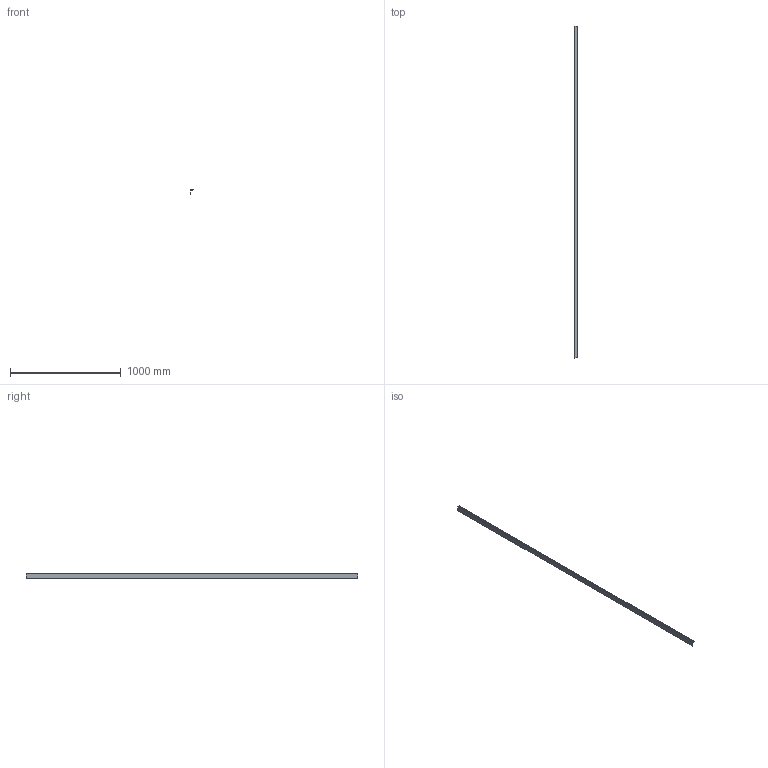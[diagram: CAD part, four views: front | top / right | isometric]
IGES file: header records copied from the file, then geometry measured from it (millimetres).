
Start section: Data from Parasolid IGES Translator 20.0.26, Copyright(c) 2006 Siemens P LM Software. All Rights Reserved.
Global section: file name: 9298808.igs; native system: By Siemens PLM Incorporated; preprocessor: XPlus GENERIC/IGES 20.0.26; author: Noname; organization: Noname; date: 20210823.112257; units: millimetre
Bounding box: 21.5 x 3000 x 40 mm (x, y, z)
Surface area: 445079.7 mm2 (no closed solid volume)
Topology: 0 solids, 0 shells, 23 faces, 126 edges, 126 vertices
Faces by surface type: extrusion 23
